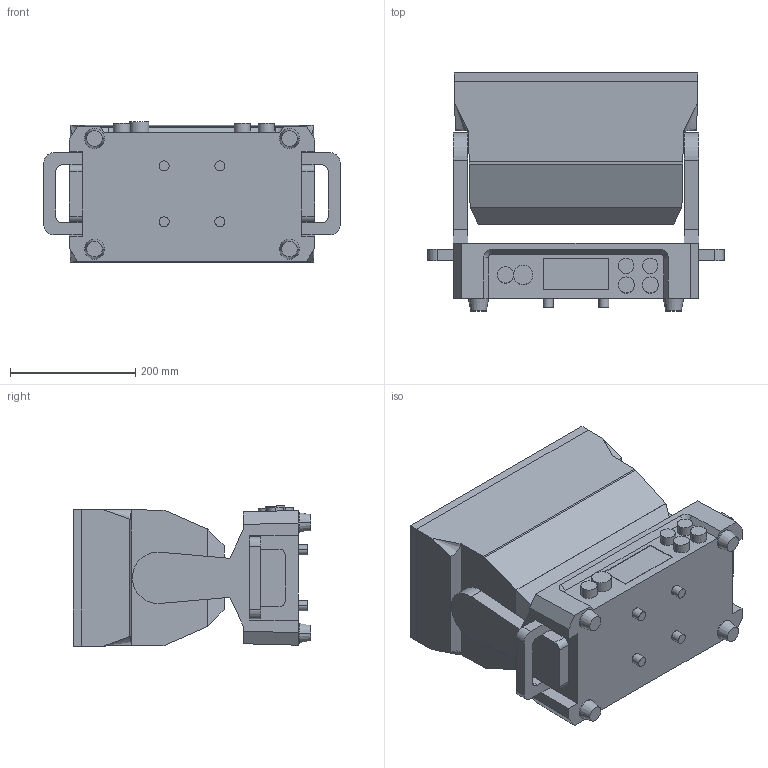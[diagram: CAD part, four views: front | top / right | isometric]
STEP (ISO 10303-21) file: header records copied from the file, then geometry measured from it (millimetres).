
FILE_DESCRIPTION((''),'2;1');
FILE_NAME('GLP-21349_ASM','2024-04-22T12:42:06',('SabrinaKnab'),(''),'CREO PARAMETRIC BY PTC INC, 2023073','CREO PARAMETRIC BY PTC INC, 2023073','');
FILE_SCHEMA(('AUTOMOTIVE_DESIGN { 1 0 10303 214 1 1 1 1 }'));
Length unit declared in the file: millimetre
Products named in the file (3): GLP-14672; GLP-14673; GLP-21349_ASM
Assembly tree (2 placements, depth 2):
  GLP-21349_ASM
    GLP-14672
    GLP-14673
Bounding box: 472.4 x 379.6 x 224.04 mm (x, y, z)
Volume: 24477898 mm3; surface area: 798860.6 mm2
Topology: 2 solids, 2 shells, 182 faces, 460 edges, 299 vertices
Faces by surface type: plane 114, cylinder 54, cone 10, bspline 4
Entity records: 8614 total; most frequent: CARTESIAN_POINT 1546, DIRECTION 1044, ORIENTED_EDGE 920, PRESENTATION_STYLE_ASSIGNMENT 494, STYLED_ITEM 494, CURVE_STYLE 492, EDGE_CURVE 460, VECTOR 349
